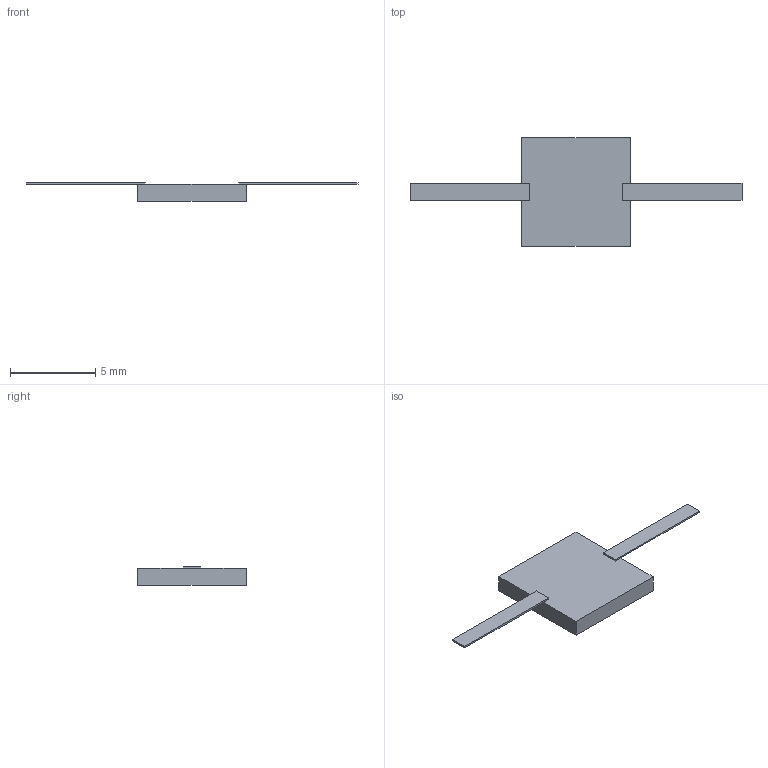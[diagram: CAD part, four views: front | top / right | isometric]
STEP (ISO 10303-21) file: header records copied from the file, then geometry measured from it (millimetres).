
FILE_DESCRIPTION(('STEP AP203'), '1');
FILE_NAME('P1-170-60-18', '', ('UNSPECIFIED'), ('UNSPECIFIED'), 'ASCON STEP Converter 1.6', 'ASCON Math Kernel', '');
FILE_SCHEMA(('CONFIG_CONTROL_DESIGN'));
Length unit declared in the file: millimetre
Bounding box: 19.5 x 6.4 x 1.1 mm (x, y, z)
Volume: 42.4 mm3; surface area: 136.9 mm2
Topology: 1 solids, 1 shells, 18 faces, 44 edges, 28 vertices
Faces by surface type: plane 18
Entity records: 704 total; most frequent: CARTESIAN_POINT 91, ORIENTED_EDGE 88, DIRECTION 82, EDGE_CURVE 44, LINE 44, VECTOR 44, VERTEX_POINT 28, AXIS2_PLACEMENT_3D 19
